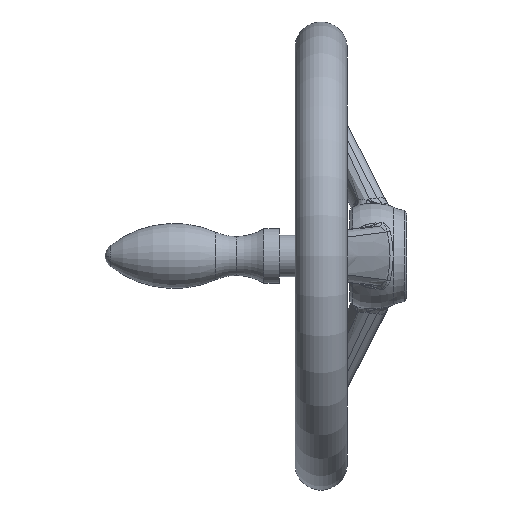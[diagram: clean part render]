
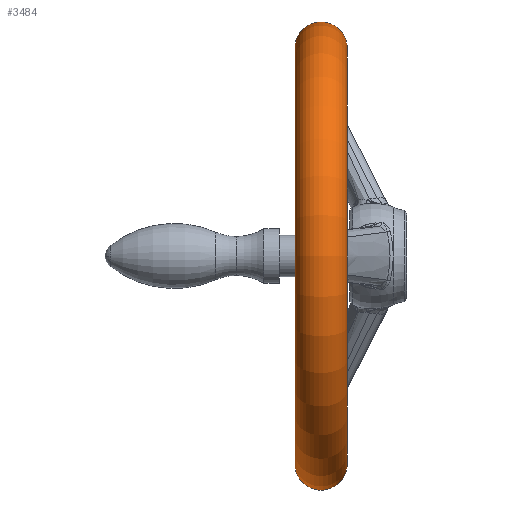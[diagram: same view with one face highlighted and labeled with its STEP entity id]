
A CAD part, left-side view. The second image highlights one B-rep face of the part: STEP entity #3484.
In plain terms, the highlighted toroidal (fillet/blend) face has major radius 79.944 mm and minor radius 10.056 mm.
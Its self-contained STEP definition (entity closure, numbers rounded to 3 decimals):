
#3465 = ORIENTED_EDGE ( 'NONE', *, *, #4167, .T. ) ;
#3469 = ORIENTED_EDGE ( 'NONE', *, *, #4314, .T. ) ;
#3472 = ORIENTED_EDGE ( 'NONE', *, *, #4236, .F. ) ;
#3484 = ADVANCED_FACE ( 'NONE', ( #11350 ), #11345, .T. ) ;
#3485 = EDGE_LOOP ( 'NONE', ( #3472, #3469, #3465, #3501 ) ) ;
#3501 = ORIENTED_EDGE ( 'NONE', *, *, #4160, .F. ) ;
#4156 = VERTEX_POINT ( 'NONE', #12523 ) ;
#4160 = EDGE_CURVE ( 'NONE', #4156, #4169, #12561, .T. ) ;
#4167 = EDGE_CURVE ( 'NONE', #4344, #4169, #12556, .T. ) ;
#4169 = VERTEX_POINT ( 'NONE', #12553 ) ;
#4236 = EDGE_CURVE ( 'NONE', #4346, #4156, #12671, .T. ) ;
#4314 = EDGE_CURVE ( 'NONE', #4346, #4344, #12722, .T. ) ;
#4344 = VERTEX_POINT ( 'NONE', #12743 ) ;
#4346 = VERTEX_POINT ( 'NONE', #12764 ) ;
#11342 = DIRECTION ( 'NONE',  ( 0., 0., -1. ) ) ;
#11343 = DIRECTION ( 'NONE',  ( 0., -1., 0. ) ) ;
#11344 = CARTESIAN_POINT ( 'NONE',  ( 0., 33., 0. ) ) ;
#11345 = TOROIDAL_SURFACE ( 'NONE', #11346, 79.944, 10.056 ) ;
#11346 = AXIS2_PLACEMENT_3D ( 'NONE', #11344, #11343, #11342 ) ;
#11350 = FACE_OUTER_BOUND ( 'NONE', #3485, .T. ) ;
#12523 = CARTESIAN_POINT ( 'NONE',  ( 0., 23., 81. ) ) ;
#12527 = CARTESIAN_POINT ( 'NONE',  ( 0., 23., 0. ) ) ;
#12551 = DIRECTION ( 'NONE',  ( -1., 0., 0. ) ) ;
#12553 = CARTESIAN_POINT ( 'NONE',  ( 0., 23., -81. ) ) ;
#12556 = CIRCLE ( 'NONE', #12574, 10.056 ) ;
#12557 = CARTESIAN_POINT ( 'NONE',  ( 0., 33., -79.944 ) ) ;
#12558 = DIRECTION ( 'NONE',  ( 0., 0., -1. ) ) ;
#12559 = DIRECTION ( 'NONE',  ( 0., -1., 0. ) ) ;
#12561 = CIRCLE ( 'NONE', #12568, 81. ) ;
#12568 = AXIS2_PLACEMENT_3D ( 'NONE', #12527, #12559, #12558 ) ;
#12574 = AXIS2_PLACEMENT_3D ( 'NONE', #12557, #12551, #12614 ) ;
#12614 = DIRECTION ( 'NONE',  ( 0., 0., 1. ) ) ;
#12663 = DIRECTION ( 'NONE',  ( 0., 0., -1. ) ) ;
#12664 = DIRECTION ( 'NONE',  ( 1., 0., 0. ) ) ;
#12665 = CARTESIAN_POINT ( 'NONE',  ( 0., 33., 79.944 ) ) ;
#12666 = AXIS2_PLACEMENT_3D ( 'NONE', #12665, #12664, #12663 ) ;
#12671 = CIRCLE ( 'NONE', #12666, 10.056 ) ;
#12713 = DIRECTION ( 'NONE',  ( 0., 0., -1. ) ) ;
#12714 = DIRECTION ( 'NONE',  ( 0., -1., 0. ) ) ;
#12722 = CIRCLE ( 'NONE', #12728, 81. ) ;
#12723 = CARTESIAN_POINT ( 'NONE',  ( 0., 43., 0. ) ) ;
#12728 = AXIS2_PLACEMENT_3D ( 'NONE', #12723, #12714, #12713 ) ;
#12743 = CARTESIAN_POINT ( 'NONE',  ( 0., 43., -81. ) ) ;
#12764 = CARTESIAN_POINT ( 'NONE',  ( 0., 43., 81. ) ) ;
